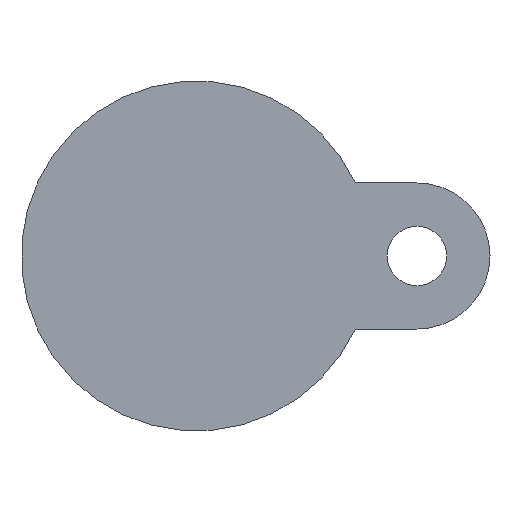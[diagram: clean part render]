
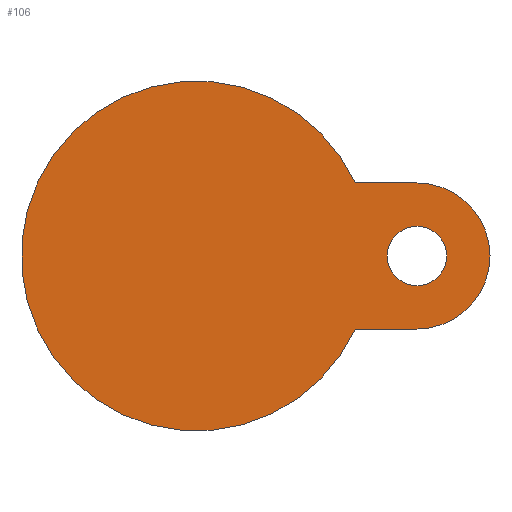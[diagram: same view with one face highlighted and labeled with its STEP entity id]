
A CAD part, front view. The second image highlights one B-rep face of the part: STEP entity #106.
In plain terms, the highlighted planar face has unit normal (0, -1, 0).
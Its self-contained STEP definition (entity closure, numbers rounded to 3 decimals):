
#68 = CARTESIAN_POINT ( 'NONE',  ( 0., -28., 0. ) ) ;
#81 = EDGE_LOOP ( 'NONE', ( #2471, #3452, #156, #3461 ) ) ;
#106 = ADVANCED_FACE ( 'NONE', ( #2825, #2848 ), #792, .T. ) ;
#156 = ORIENTED_EDGE ( 'NONE', *, *, #1585, .F. ) ;
#157 = CIRCLE ( 'NONE', #1304, 21.5 ) ;
#203 = CARTESIAN_POINT ( 'NONE',  ( 65., -28., 0. ) ) ;
#223 = CARTESIAN_POINT ( 'NONE',  ( 73.75, -28., 0. ) ) ;
#359 = EDGE_CURVE ( 'NONE', #3838, #2149, #871, .T. ) ;
#454 = CARTESIAN_POINT ( 'NONE',  ( 51.5, -28., 0. ) ) ;
#775 = CARTESIAN_POINT ( 'NONE',  ( 56.25, -28., 0. ) ) ;
#783 = DIRECTION ( 'NONE',  ( 0., -1., 0. ) ) ;
#792 = PLANE ( 'NONE',  #3870 ) ;
#844 = DIRECTION ( 'NONE',  ( 1., 0., 0. ) ) ;
#852 = DIRECTION ( 'NONE',  ( 0., 1., 0. ) ) ;
#860 = VECTOR ( 'NONE', #1309, 1000. ) ;
#871 = LINE ( 'NONE', #895, #3225 ) ;
#895 = CARTESIAN_POINT ( 'NONE',  ( 41.5, -28., 21.5 ) ) ;
#1144 = DIRECTION ( 'NONE',  ( 1., 0., 0. ) ) ;
#1277 = DIRECTION ( 'NONE',  ( 0., 1., 0. ) ) ;
#1304 = AXIS2_PLACEMENT_3D ( 'NONE', #203, #852, #1144 ) ;
#1309 = DIRECTION ( 'NONE',  ( -1., 0., 0. ) ) ;
#1390 = EDGE_CURVE ( 'NONE', #2908, #2058, #3347, .T. ) ;
#1448 = EDGE_CURVE ( 'NONE', #3838, #2058, #1942, .T. ) ;
#1489 = ORIENTED_EDGE ( 'NONE', *, *, #1802, .T. ) ;
#1519 = CARTESIAN_POINT ( 'NONE',  ( 65., -28., 21.5 ) ) ;
#1532 = EDGE_CURVE ( 'NONE', #3401, #2135, #3070, .T. ) ;
#1585 = EDGE_CURVE ( 'NONE', #2149, #2908, #157, .T. ) ;
#1710 = AXIS2_PLACEMENT_3D ( 'NONE', #4257, #2241, #2598 ) ;
#1723 = AXIS2_PLACEMENT_3D ( 'NONE', #3313, #1277, #2644 ) ;
#1802 = EDGE_CURVE ( 'NONE', #2135, #3401, #1956, .T. ) ;
#1870 = CARTESIAN_POINT ( 'NONE',  ( 65., -28., -21.5 ) ) ;
#1942 = CIRCLE ( 'NONE', #3934, 51.5 ) ;
#1956 = CIRCLE ( 'NONE', #1723, 8.75 ) ;
#2058 = VERTEX_POINT ( 'NONE', #2543 ) ;
#2135 = VERTEX_POINT ( 'NONE', #775 ) ;
#2149 = VERTEX_POINT ( 'NONE', #1519 ) ;
#2241 = DIRECTION ( 'NONE',  ( 0., 1., 0. ) ) ;
#2382 = ORIENTED_EDGE ( 'NONE', *, *, #1532, .T. ) ;
#2471 = ORIENTED_EDGE ( 'NONE', *, *, #1448, .T. ) ;
#2543 = CARTESIAN_POINT ( 'NONE',  ( 46.797, -28., -21.5 ) ) ;
#2598 = DIRECTION ( 'NONE',  ( -1., 0., 0. ) ) ;
#2644 = DIRECTION ( 'NONE',  ( -1., 0., 0. ) ) ;
#2753 = DIRECTION ( 'NONE',  ( 1., 0., 0. ) ) ;
#2825 = FACE_BOUND ( 'NONE', #3519, .T. ) ;
#2848 = FACE_OUTER_BOUND ( 'NONE', #81, .T. ) ;
#2908 = VERTEX_POINT ( 'NONE', #1870 ) ;
#3070 = CIRCLE ( 'NONE', #1710, 8.75 ) ;
#3137 = CARTESIAN_POINT ( 'NONE',  ( 46.797, -28., 21.5 ) ) ;
#3225 = VECTOR ( 'NONE', #844, 1000. ) ;
#3313 = CARTESIAN_POINT ( 'NONE',  ( 65., -28., 0. ) ) ;
#3347 = LINE ( 'NONE', #3985, #860 ) ;
#3401 = VERTEX_POINT ( 'NONE', #223 ) ;
#3452 = ORIENTED_EDGE ( 'NONE', *, *, #1390, .F. ) ;
#3461 = ORIENTED_EDGE ( 'NONE', *, *, #359, .F. ) ;
#3519 = EDGE_LOOP ( 'NONE', ( #1489, #2382 ) ) ;
#3838 = VERTEX_POINT ( 'NONE', #3137 ) ;
#3870 = AXIS2_PLACEMENT_3D ( 'NONE', #454, #3951, #4311 ) ;
#3934 = AXIS2_PLACEMENT_3D ( 'NONE', #68, #783, #2753 ) ;
#3951 = DIRECTION ( 'NONE',  ( 0., -1., 0. ) ) ;
#3985 = CARTESIAN_POINT ( 'NONE',  ( 41.5, -28., -21.5 ) ) ;
#4257 = CARTESIAN_POINT ( 'NONE',  ( 65., -28., 0. ) ) ;
#4311 = DIRECTION ( 'NONE',  ( 1., 0., 0. ) ) ;
